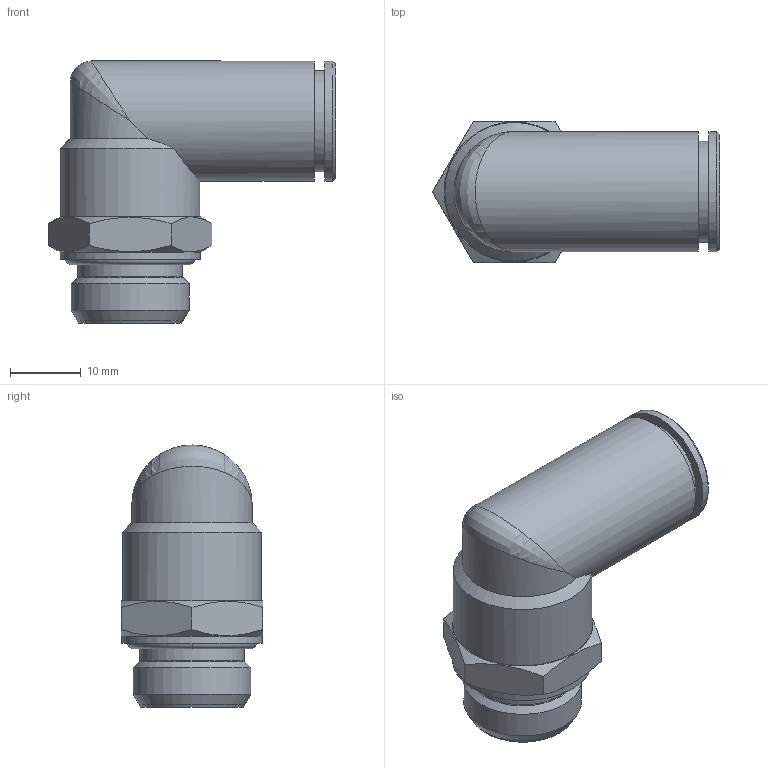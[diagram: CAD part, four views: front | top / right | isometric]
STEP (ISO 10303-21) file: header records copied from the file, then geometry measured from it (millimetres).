
FILE_DESCRIPTION(('Bauteilbeschreibung','HiCAD-Model','HiCAD-STEP-TRANSLATION','Bauteilbeschreibung'),'2;1');
FILE_NAME('B:/ABGLEICH/ZEICHNUNGEN/STEP FÜR INTERNET/STEP/202211_IPSO_022_12_3-8.STP','2011-09-19T12:17:14+00:00',('Konstrukteur'),('Konstrukteur Firma GmbH'),' HiCAD neXt 2008, Step 3.1.1401.2J ','HiCAD neXt 2008','confidential');
FILE_SCHEMA(('AUTOMOTIVE_DESIGN { 1 2 10303 214 0 1 1 1 }'));
Length unit declared in the file: millimetre
Products named in the file (7): A02211_IPSO_022_12_3_8; DR12; OR 14X1_78; A14607; A146070; G 3_8; R202210
Assembly tree (6 placements, depth 3):
  A02211_IPSO_022_12_3_8
    DR12
    OR 14X1_78
    A14607
    A146070
      G 3_8
    R202210
Bounding box: 40.55 x 20 x 37 mm (x, y, z)
Volume: 7354.8 mm3; surface area: 8710 mm2
Topology: 5 solids, 5 shells, 68 faces, 148 edges, 91 vertices
Faces by surface type: cylinder 22, plane 20, cone 18, torus 6, sphere 1, bspline 1
Full cylindrical faces by diameter (mm): 10 x1, 11 x1, 12.15 x1, 12.2 x1, 13 x1, 13.2 x1, 14.3 x1, 14.5 x1, 14.75 x1, 14.95 x2, 15.2 x1, 15.8 x2, 16.662 x1, 17 x4, 19.6 x1, 19.8 x1
Entity records: 2974 total; most frequent: CARTESIAN_POINT 1196, DIRECTION 292, ORIENTED_EDGE 178, AXIS2_PLACEMENT_3D 143, EDGE_LOOP 122, EDGE_CURVE 89, COLOUR_RGB 79, PRESENTATION_STYLE_ASSIGNMENT 79
